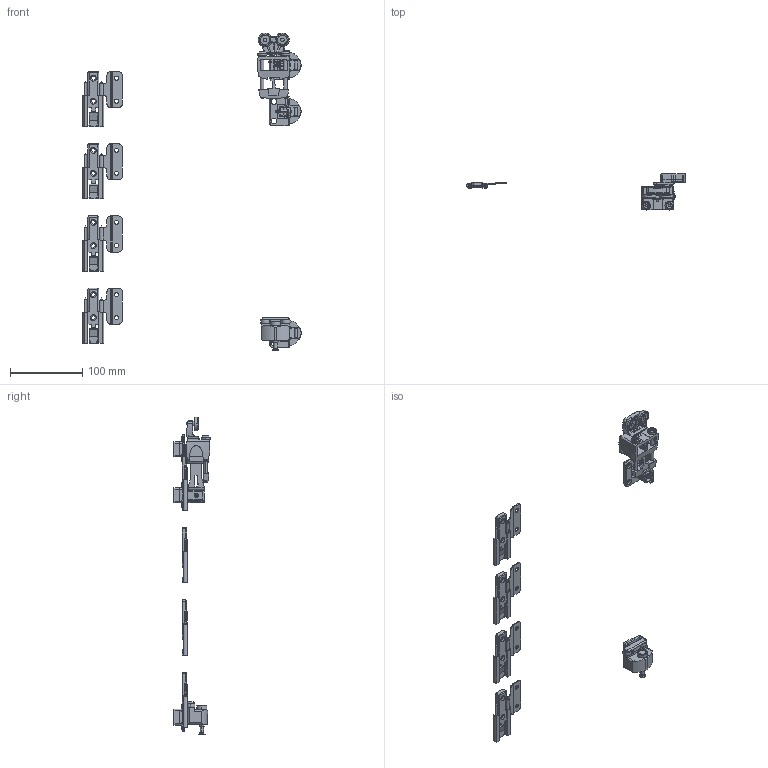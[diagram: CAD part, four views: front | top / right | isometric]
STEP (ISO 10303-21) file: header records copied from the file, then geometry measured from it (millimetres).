
FILE_DESCRIPTION( ( '' ), '1' );
FILE_NAME( 'D:/temp/hettich_stp/hettich/4_folding_sliding/4.4_folding_door/20kg_wl_770-wl_770_alu/wl_770_right/70969.stp', '2013-02-26T10:21:15', ( '' ), ( '' ), ' ', ' ', ' ' );
FILE_SCHEMA( ( 'automotive_design' ) );
Length unit declared in the file: millimetre
Products named in the file (10): 1; 2; 3; 4; 5; 6; 7; 8; 9; 10
Bounding box: 302.36 x 49.98 x 440.8 mm (x, y, z)
Volume: 118136.9 mm3; surface area: 87950.7 mm2
Topology: 10 solids, 10 shells, 1567 faces, 4559 edges, 2990 vertices
Faces by surface type: plane 921, cylinder 546, cone 58, torus 40, sphere 2
Entity records: 104003 total; most frequent: CARTESIAN_POINT 10814, STYLED_ITEM 9122, PRESENTATION_STYLE_ASSIGNMENT 9122, COLOUR_RGB 9122, ORIENTED_EDGE 9110, DIRECTION 8926, EDGE_CURVE 4555, CURVE_STYLE 4555
